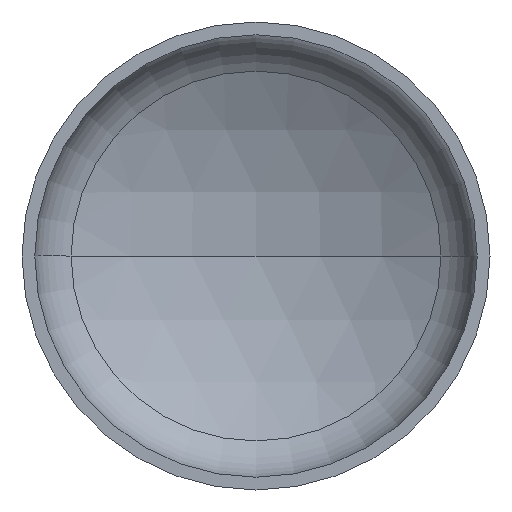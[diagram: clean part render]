
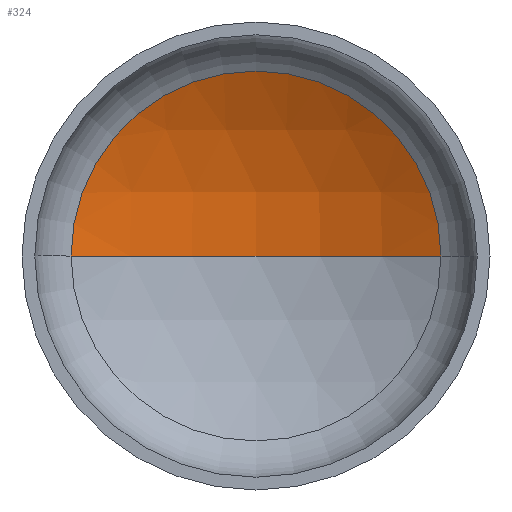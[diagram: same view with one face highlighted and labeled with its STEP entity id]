
A CAD part, front view. The second image highlights one B-rep face of the part: STEP entity #324.
In plain terms, the highlighted spherical face has radius 1200 mm.
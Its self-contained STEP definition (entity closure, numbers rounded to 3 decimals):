
#5 = FACE_OUTER_BOUND ( 'NONE', #40, .T. ) ;
#14 = AXIS2_PLACEMENT_3D ( 'NONE', #382, #243, #334 ) ;
#16 = AXIS2_PLACEMENT_3D ( 'NONE', #310, #157, #160 ) ;
#20 = AXIS2_PLACEMENT_3D ( 'NONE', #177, #380, #393 ) ;
#40 = EDGE_LOOP ( 'NONE', ( #129, #150, #131 ) ) ;
#49 = VERTEX_POINT ( 'NONE', #246 ) ;
#104 = CIRCLE ( 'NONE', #395, 1200. ) ;
#129 = ORIENTED_EDGE ( 'NONE', *, *, #379, .F. ) ;
#131 = ORIENTED_EDGE ( 'NONE', *, *, #344, .T. ) ;
#149 = VERTEX_POINT ( 'NONE', #159 ) ;
#150 = ORIENTED_EDGE ( 'NONE', *, *, #345, .T. ) ;
#157 = DIRECTION ( 'NONE',  ( 0., -1., 0. ) ) ;
#159 = CARTESIAN_POINT ( 'NONE',  ( 0., 486.52, 0. ) ) ;
#160 = DIRECTION ( 'NONE',  ( 1., 0., 0. ) ) ;
#164 = CARTESIAN_POINT ( 'NONE',  ( 0., -713.48, 0. ) ) ;
#177 = CARTESIAN_POINT ( 'NONE',  ( 0., -713.48, 0. ) ) ;
#198 = DIRECTION ( 'NONE',  ( 1., 0., 0. ) ) ;
#224 = VERTEX_POINT ( 'NONE', #340 ) ;
#230 = CIRCLE ( 'NONE', #14, 1200. ) ;
#235 = CIRCLE ( 'NONE', #16, 592.577 ) ;
#243 = DIRECTION ( 'NONE',  ( 0., 0., -1. ) ) ;
#246 = CARTESIAN_POINT ( 'NONE',  ( 592.577, 330., 0. ) ) ;
#310 = CARTESIAN_POINT ( 'NONE',  ( 0., 330., 0. ) ) ;
#324 = ADVANCED_FACE ( 'NONE', ( #5 ), #406, .F. ) ;
#334 = DIRECTION ( 'NONE',  ( -1., 0., 0. ) ) ;
#340 = CARTESIAN_POINT ( 'NONE',  ( -592.577, 330., 0. ) ) ;
#343 = DIRECTION ( 'NONE',  ( 0., 0., 1. ) ) ;
#344 = EDGE_CURVE ( 'NONE', #49, #224, #235, .T. ) ;
#345 = EDGE_CURVE ( 'NONE', #149, #49, #230, .T. ) ;
#379 = EDGE_CURVE ( 'NONE', #149, #224, #104, .T. ) ;
#380 = DIRECTION ( 'NONE',  ( 0., 0., -1. ) ) ;
#382 = CARTESIAN_POINT ( 'NONE',  ( 0., -713.48, 0. ) ) ;
#393 = DIRECTION ( 'NONE',  ( -1., 0., 0. ) ) ;
#395 = AXIS2_PLACEMENT_3D ( 'NONE', #164, #343, #198 ) ;
#406 = SPHERICAL_SURFACE ( 'NONE', #20, 1200. ) ;
